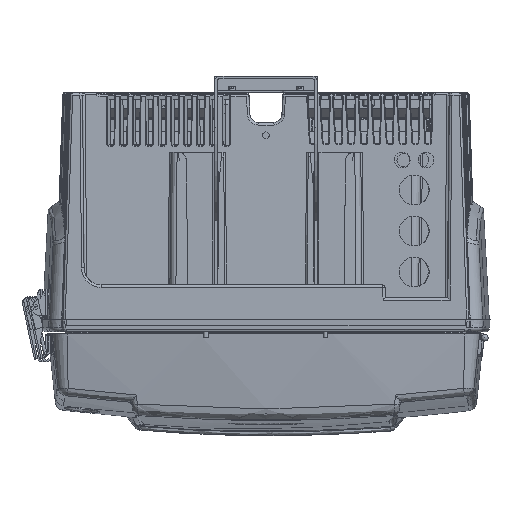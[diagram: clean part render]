
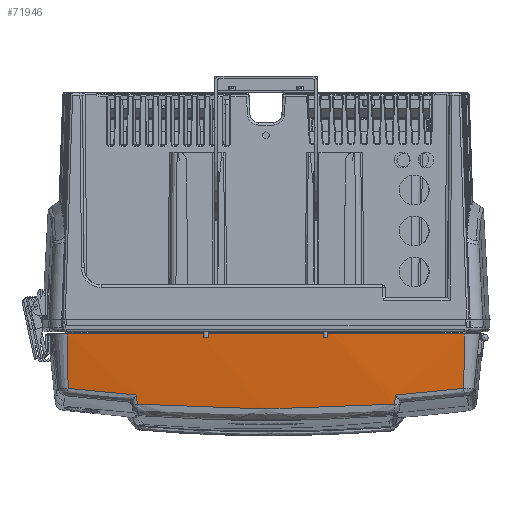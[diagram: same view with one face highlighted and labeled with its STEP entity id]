
A CAD part, front view. The second image highlights one B-rep face of the part: STEP entity #71946.
In plain terms, the highlighted conical face has half-angle 6 degrees and reference radius 1980.39 mm.
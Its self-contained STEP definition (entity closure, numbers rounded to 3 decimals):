
#1303 = EDGE_CURVE ( 'NONE', #299949, #78534, #133074, .T. ) ;
#6148 = CARTESIAN_POINT ( 'NONE',  ( -150.453, -310.635, -193.112 ) ) ;
#6980 = CARTESIAN_POINT ( 'NONE',  ( 204.921, -307.515, -177.819 ) ) ;
#7188 = CARTESIAN_POINT ( 'NONE',  ( 50.168, -315.214, -198.138 ) ) ;
#18219 = EDGE_LOOP ( 'NONE', ( #33041, #36755, #68078, #181074, #305952, #23678, #61234, #84502 ) ) ;
#21004 = CARTESIAN_POINT ( 'NONE',  ( 151.628, -311.67, -182.439 ) ) ;
#23678 = ORIENTED_EDGE ( 'NONE', *, *, #1303, .T. ) ;
#30942 = CARTESIAN_POINT ( 'NONE',  ( 178.279, -309.835, -180.398 ) ) ;
#32376 = CARTESIAN_POINT ( 'NONE',  ( -151.237, -311.325, -185.997 ) ) ;
#33041 = ORIENTED_EDGE ( 'NONE', *, *, #274568, .T. ) ;
#33431 = CARTESIAN_POINT ( 'NONE',  ( 68.981, -314.706, -197.579 ) ) ;
#36036 = EDGE_CURVE ( 'NONE', #142546, #167394, #209978, .T. ) ;
#36755 = ORIENTED_EDGE ( 'NONE', *, *, #249152, .T. ) ;
#49326 = CARTESIAN_POINT ( 'NONE',  ( 232.323, -311.358, -111. ) ) ;
#58523 = CARTESIAN_POINT ( 'NONE',  ( -106.587, -313.206, -195.933 ) ) ;
#58747 = CARTESIAN_POINT ( 'NONE',  ( 232.323, -311.358, -111. ) ) ;
#59671 = CARTESIAN_POINT ( 'NONE',  ( 125.392, -312.35, -194.993 ) ) ;
#61234 = ORIENTED_EDGE ( 'NONE', *, *, #126735, .T. ) ;
#62661 = CARTESIAN_POINT ( 'NONE',  ( 151.236, -311.325, -185.997 ) ) ;
#68078 = ORIENTED_EDGE ( 'NONE', *, *, #296411, .T. ) ;
#71946 = ADVANCED_FACE ( 'NONE', ( #250433 ), #234165, .T. ) ;
#76958 = B_SPLINE_CURVE_WITH_KNOTS ( 'NONE', 3,
 ( #192536, #166474, #62661, #244857 ),
 .UNSPECIFIED., .F., .F.,
 ( 4, 4 ),
 ( 0., 1. ),
 .UNSPECIFIED. ) ;
#78534 = VERTEX_POINT ( 'NONE', #109003 ) ;
#84502 = ORIENTED_EDGE ( 'NONE', *, *, #151740, .F. ) ;
#84775 = CARTESIAN_POINT ( 'NONE',  ( -87.783, -314.036, -196.844 ) ) ;
#94280 = VERTEX_POINT ( 'NONE', #287466 ) ;
#101980 = CARTESIAN_POINT ( 'NONE',  ( 0., 1660., -111. ) ) ;
#109003 = CARTESIAN_POINT ( 'NONE',  ( -231.54, -304.708, -174.701 ) ) ;
#110754 = VERTEX_POINT ( 'NONE', #21004 ) ;
#111088 = CARTESIAN_POINT ( 'NONE',  ( -50.171, -315.348, -198.285 ) ) ;
#124333 = CARTESIAN_POINT ( 'NONE',  ( 231.54, -304.708, -174.701 ) ) ;
#126432 = CARTESIAN_POINT ( 'NONE',  ( -204.921, -307.515, -177.819 ) ) ;
#126735 = EDGE_CURVE ( 'NONE', #78534, #263924, #139927, .T. ) ;
#126923 = CARTESIAN_POINT ( 'NONE',  ( 232.062, -309.141, -132.234 ) ) ;
#128094 = DIRECTION ( 'NONE',  ( -0.117, -0.993, 0. ) ) ;
#133074 = LINE ( 'NONE', #183822, #210474 ) ;
#135687 = AXIS2_PLACEMENT_3D ( 'NONE', #101980, #283935, #128094 ) ;
#137247 = CARTESIAN_POINT ( 'NONE',  ( 12.542, -315.777, -198.755 ) ) ;
#137670 = DIRECTION ( 'NONE',  ( 0., 0., 1. ) ) ;
#139927 = B_SPLINE_CURVE_WITH_KNOTS ( 'NONE', 3,
 ( #282235, #126432, #334503, #178846 ),
 .UNSPECIFIED., .F., .F.,
 ( 4, 4 ),
 ( 0., 1. ),
 .UNSPECIFIED. ) ;
#142546 = VERTEX_POINT ( 'NONE', #58747 ) ;
#151740 = EDGE_CURVE ( 'NONE', #94280, #263924, #230479, .T. ) ;
#162341 = CARTESIAN_POINT ( 'NONE',  ( -150.453, -310.635, -193.112 ) ) ;
#162412 = CARTESIAN_POINT ( 'NONE',  ( -150.845, -310.98, -189.554 ) ) ;
#163471 = CARTESIAN_POINT ( 'NONE',  ( 43.897, -315.348, -198.285 ) ) ;
#163871 = DIRECTION ( 'NONE',  ( 1., 0., 0. ) ) ;
#166474 = CARTESIAN_POINT ( 'NONE',  ( 150.845, -310.98, -189.554 ) ) ;
#167394 = VERTEX_POINT ( 'NONE', #124333 ) ;
#178846 = CARTESIAN_POINT ( 'NONE',  ( -151.628, -311.67, -182.439 ) ) ;
#181074 = ORIENTED_EDGE ( 'NONE', *, *, #36036, .F. ) ;
#183150 = DIRECTION ( 'NONE',  ( 0.012, 0.104, -0.995 ) ) ;
#183822 = CARTESIAN_POINT ( 'NONE',  ( -232.323, -311.358, -111. ) ) ;
#189361 = CARTESIAN_POINT ( 'NONE',  ( 231.54, -304.708, -174.701 ) ) ;
#189562 = CARTESIAN_POINT ( 'NONE',  ( 62.709, -314.893, -197.785 ) ) ;
#192536 = CARTESIAN_POINT ( 'NONE',  ( 150.453, -310.635, -193.112 ) ) ;
#209978 = B_SPLINE_CURVE_WITH_KNOTS ( 'NONE', 3,
 ( #49326, #126923, #256591, #231667 ),
 .UNSPECIFIED., .F., .F.,
 ( 4, 4 ),
 ( 0., 1. ),
 .UNSPECIFIED. ) ;
#210474 = VECTOR ( 'NONE', #183150, 1000. ) ;
#213924 = CARTESIAN_POINT ( 'NONE',  ( 0., 1660., -154.878 ) ) ;
#214612 = CARTESIAN_POINT ( 'NONE',  ( -125.389, -312.242, -194.875 ) ) ;
#214692 = CARTESIAN_POINT ( 'NONE',  ( -151.628, -311.67, -182.439 ) ) ;
#215756 = CARTESIAN_POINT ( 'NONE',  ( 100.319, -313.635, -196.404 ) ) ;
#222294 = B_SPLINE_CURVE_WITH_KNOTS ( 'NONE', 3,
 ( #318935, #30942, #6980, #189361 ),
 .UNSPECIFIED., .F., .F.,
 ( 4, 4 ),
 ( 0., 1. ),
 .UNSPECIFIED. ) ;
#230479 = B_SPLINE_CURVE_WITH_KNOTS ( 'NONE', 3,
 ( #6148, #162412, #32376, #214692 ),
 .UNSPECIFIED., .F., .F.,
 ( 4, 4 ),
 ( 0., 1. ),
 .UNSPECIFIED. ) ;
#231667 = CARTESIAN_POINT ( 'NONE',  ( 231.54, -304.708, -174.701 ) ) ;
#234165 = CONICAL_SURFACE ( 'NONE', #317711, 1980.388, 0.105 ) ;
#240769 = CARTESIAN_POINT ( 'NONE',  ( -100.319, -313.501, -196.257 ) ) ;
#241867 = CARTESIAN_POINT ( 'NONE',  ( 150.453, -310.635, -193.112 ) ) ;
#244857 = CARTESIAN_POINT ( 'NONE',  ( 151.628, -311.67, -182.439 ) ) ;
#249152 = EDGE_CURVE ( 'NONE', #271689, #110754, #76958, .T. ) ;
#250433 = FACE_OUTER_BOUND ( 'NONE', #18219, .T. ) ;
#256591 = CARTESIAN_POINT ( 'NONE',  ( 231.801, -306.925, -153.467 ) ) ;
#263046 = EDGE_CURVE ( 'NONE', #299949, #142546, #311888, .T. ) ;
#263924 = VERTEX_POINT ( 'NONE', #322050 ) ;
#266099 = CARTESIAN_POINT ( 'NONE',  ( 150.453, -310.635, -193.112 ) ) ;
#266845 = CARTESIAN_POINT ( 'NONE',  ( -81.517, -314.277, -197.109 ) ) ;
#271689 = VERTEX_POINT ( 'NONE', #266099 ) ;
#274568 = EDGE_CURVE ( 'NONE', #94280, #271689, #299279, .T. ) ;
#282235 = CARTESIAN_POINT ( 'NONE',  ( -231.54, -304.708, -174.701 ) ) ;
#283935 = DIRECTION ( 'NONE',  ( 0., 0., 1. ) ) ;
#287466 = CARTESIAN_POINT ( 'NONE',  ( -150.453, -310.635, -193.112 ) ) ;
#293018 = CARTESIAN_POINT ( 'NONE',  ( -25.083, -315.777, -198.755 ) ) ;
#296411 = EDGE_CURVE ( 'NONE', #110754, #167394, #222294, .T. ) ;
#299279 = B_SPLINE_CURVE_WITH_KNOTS ( 'NONE', 3,
 ( #162341, #318031, #214612, #58523, #240769, #84775, #266845, #111088, #293018, #137247, #319142, #163471, #7188, #189562, #33431, #215756, #59671, #241867 ),
 .UNSPECIFIED., .F., .F.,
 ( 4, 2, 2, 2, 2, 2, 2, 2, 4 ),
 ( 0., 0.125, 0.188, 0.25, 0.5, 0.625, 0.688, 0.75, 1. ),
 .UNSPECIFIED. ) ;
#299949 = VERTEX_POINT ( 'NONE', #300403 ) ;
#300403 = CARTESIAN_POINT ( 'NONE',  ( -232.323, -311.358, -111. ) ) ;
#305952 = ORIENTED_EDGE ( 'NONE', *, *, #263046, .F. ) ;
#311888 = CIRCLE ( 'NONE', #135687, 1985. ) ;
#317711 = AXIS2_PLACEMENT_3D ( 'NONE', #213924, #137670, #163871 ) ;
#318031 = CARTESIAN_POINT ( 'NONE',  ( -137.922, -311.492, -194.052 ) ) ;
#318935 = CARTESIAN_POINT ( 'NONE',  ( 151.628, -311.67, -182.439 ) ) ;
#319142 = CARTESIAN_POINT ( 'NONE',  ( 25.085, -315.67, -198.637 ) ) ;
#322050 = CARTESIAN_POINT ( 'NONE',  ( -151.628, -311.67, -182.439 ) ) ;
#334503 = CARTESIAN_POINT ( 'NONE',  ( -178.279, -309.835, -180.398 ) ) ;
